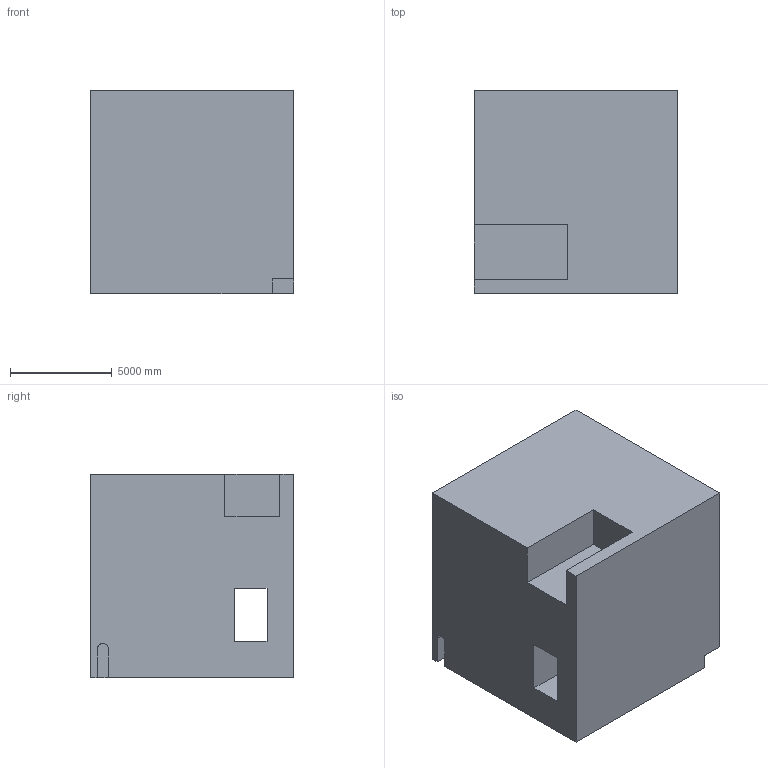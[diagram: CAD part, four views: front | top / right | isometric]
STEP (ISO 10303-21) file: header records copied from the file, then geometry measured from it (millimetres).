
FILE_DESCRIPTION (( 'STEP AP203' ), '1' );
FILE_NAME ('42.STEP', '2022-09-01T11:44:01', ( 'user' ), ( '' ), 'SwSTEP 2.0', 'SolidWorks 2021', '' );
FILE_SCHEMA (( 'CONFIG_CONTROL_DESIGN' ));
Length unit declared in the file: centimetre
Products named in the file (1): 42
Bounding box: 10000 x 10000 x 10000 mm (x, y, z)
Volume: 916741768613 mm3; surface area: 731698049.9 mm2
Topology: 1 solids, 1 shells, 25 faces, 66 edges, 44 vertices
Faces by surface type: plane 21, cylinder 4
Entity records: 849 total; most frequent: CARTESIAN_POINT 136, ORIENTED_EDGE 132, DIRECTION 126, EDGE_CURVE 66, VECTOR 58, LINE 58, VERTEX_POINT 44, AXIS2_PLACEMENT_3D 34
